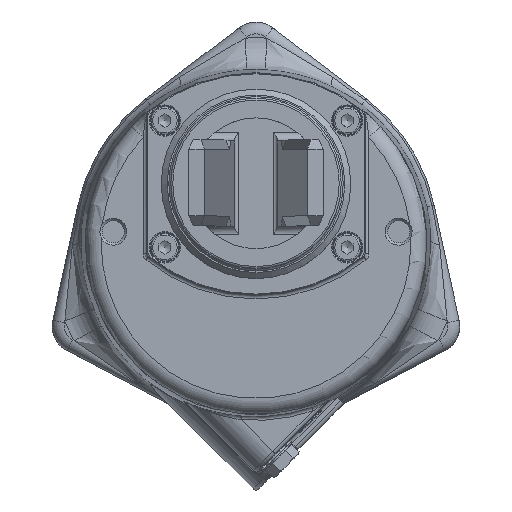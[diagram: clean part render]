
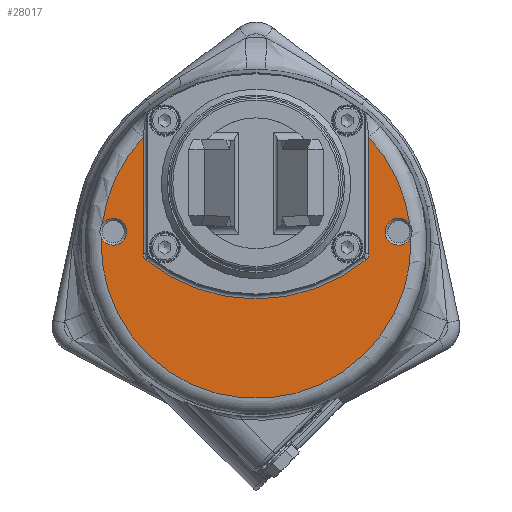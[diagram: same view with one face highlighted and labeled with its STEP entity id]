
A CAD part, top view. The second image highlights one B-rep face of the part: STEP entity #28017.
In plain terms, the highlighted planar face has unit normal (0, 0, 1).
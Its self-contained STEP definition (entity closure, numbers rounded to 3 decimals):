
#716=B_SPLINE_CURVE_WITH_KNOTS('',3,(#41596,#41597,#41598,#41599),
 .UNSPECIFIED.,.F.,.F.,(4,4),(-0.177,0.),
 .UNSPECIFIED.);
#717=B_SPLINE_CURVE_WITH_KNOTS('',3,(#41603,#41604,#41605,#41606),
 .UNSPECIFIED.,.F.,.F.,(4,4),(-0.177,0.),.UNSPECIFIED.);
#2108=PLANE('',#30450);
#3372=FACE_OUTER_BOUND('',#5056,.T.);
#5056=EDGE_LOOP('',(#19756,#19757,#19758,#19759,#19760,#19761,#19762,#19763,
#19764,#19765,#19766));
#6892=LINE('',#41594,#9118);
#6893=LINE('',#41608,#9119);
#9118=VECTOR('',#33596,10.);
#9119=VECTOR('',#33599,10.);
#11277=CIRCLE('',#30438,3.4);
#11279=CIRCLE('',#30440,3.4);
#11281=CIRCLE('',#30445,3.4);
#11284=CIRCLE('',#30451,39.084);
#11285=CIRCLE('',#30452,43.979);
#11286=CIRCLE('',#30453,39.084);
#11287=CIRCLE('',#30454,39.084);
#12596=VERTEX_POINT('',#41536);
#12597=VERTEX_POINT('',#41537);
#12598=VERTEX_POINT('',#41550);
#12601=VERTEX_POINT('',#41562);
#12603=VERTEX_POINT('',#41570);
#12606=VERTEX_POINT('',#41591);
#12607=VERTEX_POINT('',#41593);
#12608=VERTEX_POINT('',#41595);
#12609=VERTEX_POINT('',#41600);
#12610=VERTEX_POINT('',#41602);
#12611=VERTEX_POINT('',#41607);
#15360=EDGE_CURVE('',#12598,#12596,#11277,.T.);
#15363=EDGE_CURVE('',#12597,#12598,#11279,.T.);
#15367=EDGE_CURVE('',#12603,#12601,#11281,.T.);
#15373=EDGE_CURVE('',#12606,#12596,#11284,.T.);
#15374=EDGE_CURVE('',#12607,#12606,#6892,.T.);
#15375=EDGE_CURVE('',#12608,#12607,#716,.T.);
#15376=EDGE_CURVE('',#12609,#12608,#11285,.T.);
#15377=EDGE_CURVE('',#12610,#12609,#717,.T.);
#15378=EDGE_CURVE('',#12611,#12610,#6893,.T.);
#15379=EDGE_CURVE('',#12603,#12611,#11286,.T.);
#15380=EDGE_CURVE('',#12597,#12601,#11287,.T.);
#19756=ORIENTED_EDGE('',*,*,#15363,.T.);
#19757=ORIENTED_EDGE('',*,*,#15360,.T.);
#19758=ORIENTED_EDGE('',*,*,#15373,.F.);
#19759=ORIENTED_EDGE('',*,*,#15374,.F.);
#19760=ORIENTED_EDGE('',*,*,#15375,.F.);
#19761=ORIENTED_EDGE('',*,*,#15376,.F.);
#19762=ORIENTED_EDGE('',*,*,#15377,.F.);
#19763=ORIENTED_EDGE('',*,*,#15378,.F.);
#19764=ORIENTED_EDGE('',*,*,#15379,.F.);
#19765=ORIENTED_EDGE('',*,*,#15367,.T.);
#19766=ORIENTED_EDGE('',*,*,#15380,.F.);
#28017=ADVANCED_FACE('',(#3372),#2108,.F.);
#30438=AXIS2_PLACEMENT_3D('',#41551,#33564,#33565);
#30440=AXIS2_PLACEMENT_3D('',#41555,#33569,#33570);
#30445=AXIS2_PLACEMENT_3D('',#41571,#33580,#33581);
#30450=AXIS2_PLACEMENT_3D('',#41590,#33592,#33593);
#30451=AXIS2_PLACEMENT_3D('',#41592,#33594,#33595);
#30452=AXIS2_PLACEMENT_3D('',#41601,#33597,#33598);
#30453=AXIS2_PLACEMENT_3D('',#41609,#33600,#33601);
#30454=AXIS2_PLACEMENT_3D('',#41610,#33602,#33603);
#33564=DIRECTION('center_axis',(0.,0.,-1.));
#33565=DIRECTION('ref_axis',(1.,0.,0.));
#33569=DIRECTION('center_axis',(0.,0.,-1.));
#33570=DIRECTION('ref_axis',(1.,0.,0.));
#33580=DIRECTION('center_axis',(0.,0.,-1.));
#33581=DIRECTION('ref_axis',(1.,0.,0.));
#33592=DIRECTION('center_axis',(0.,0.,-1.));
#33593=DIRECTION('ref_axis',(-1.,0.,0.));
#33594=DIRECTION('center_axis',(0.,0.,-1.));
#33595=DIRECTION('ref_axis',(0.,-1.,0.));
#33596=DIRECTION('',(0.,1.,0.));
#33597=DIRECTION('center_axis',(0.,0.,1.));
#33598=DIRECTION('ref_axis',(0.,-1.,0.));
#33599=DIRECTION('',(0.,-1.,0.));
#33600=DIRECTION('center_axis',(0.,0.,-1.));
#33601=DIRECTION('ref_axis',(0.,-1.,0.));
#33602=DIRECTION('center_axis',(0.,0.,-1.));
#33603=DIRECTION('ref_axis',(0.,-1.,0.));
#41536=CARTESIAN_POINT('',(38.766,4.977,76.));
#41537=CARTESIAN_POINT('',(39.055,1.508,76.));
#41550=CARTESIAN_POINT('',(32.6,3.,76.));
#41551=CARTESIAN_POINT('Origin',(36.,3.,76.));
#41555=CARTESIAN_POINT('Origin',(36.,3.,76.));
#41562=CARTESIAN_POINT('',(-39.055,1.508,76.));
#41570=CARTESIAN_POINT('',(-38.766,4.977,76.));
#41571=CARTESIAN_POINT('Origin',(-36.,3.,76.));
#41590=CARTESIAN_POINT('Origin',(0.,-38.,76.));
#41591=CARTESIAN_POINT('',(28.5,26.746,76.));
#41592=CARTESIAN_POINT('Origin',(0.,0.,76.));
#41593=CARTESIAN_POINT('',(28.5,-2.557,76.));
#41594=CARTESIAN_POINT('',(28.5,-1.5,76.));
#41595=CARTESIAN_POINT('',(27.762,-4.109,76.));
#41596=CARTESIAN_POINT('Ctrl Pts',(27.762,-4.109,76.));
#41597=CARTESIAN_POINT('Ctrl Pts',(28.219,-3.737,76.));
#41598=CARTESIAN_POINT('Ctrl Pts',(28.5,-3.146,76.));
#41599=CARTESIAN_POINT('Ctrl Pts',(28.5,-2.557,76.));
#41600=CARTESIAN_POINT('',(-27.762,-4.109,76.));
#41601=CARTESIAN_POINT('Origin',(0.,30.,76.));
#41602=CARTESIAN_POINT('',(-28.5,-2.557,76.));
#41603=CARTESIAN_POINT('Ctrl Pts',(-28.5,-2.557,76.));
#41604=CARTESIAN_POINT('Ctrl Pts',(-28.5,-3.146,76.));
#41605=CARTESIAN_POINT('Ctrl Pts',(-28.219,-3.737,
76.));
#41606=CARTESIAN_POINT('Ctrl Pts',(-27.762,-4.109,
76.));
#41607=CARTESIAN_POINT('',(-28.5,26.746,76.));
#41608=CARTESIAN_POINT('',(-28.5,-21.5,76.));
#41609=CARTESIAN_POINT('Origin',(0.,0.,76.));
#41610=CARTESIAN_POINT('Origin',(0.,0.,76.));
